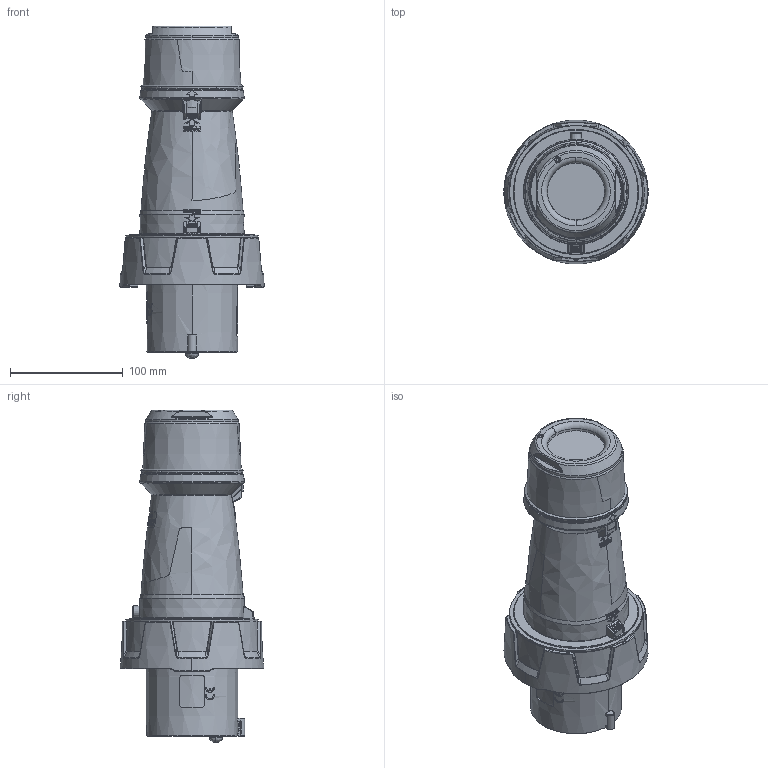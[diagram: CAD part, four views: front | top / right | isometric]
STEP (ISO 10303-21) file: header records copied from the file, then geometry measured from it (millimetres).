
FILE_DESCRIPTION((''),'2;1');
FILE_NAME('1115768_ASM_SW0002','2018-02-12T',('gisse'),('MENNEKES'),'PRO/ENGINEER BY PARAMETRIC TECHNOLOGY CORPORATION, 2015440','PRO/ENGINEER BY PARAMETRIC TECHNOLOGY CORPORATION, 2015440','');
FILE_SCHEMA(('AUTOMOTIVE_DESIGN { 1 0 10303 214 1 1 1 1 }'));
Products named in the file (1): 1115768_ASM_SW0002
Bounding box: 128 x 127.38 x 294.4 mm (x, y, z)
Volume: 1515107.5 mm3; surface area: 150738.2 mm2
Topology: 1 solids, 1 shells, 2645 faces, 7125 edges, 4594 vertices
Faces by surface type: plane 1037, extrusion 695, bspline 416, cylinder 220, cone 154, torus 97, sphere 26
Entity records: 130373 total; most frequent: CARTESIAN_POINT 41590, ORIENTED_EDGE 14250, DIRECTION 9210, EDGE_CURVE 7125, VERTEX_POINT 4594, FILL_AREA_STYLE_COLOUR 4209, FILL_AREA_STYLE 4209, SURFACE_STYLE_FILL_AREA 4209
